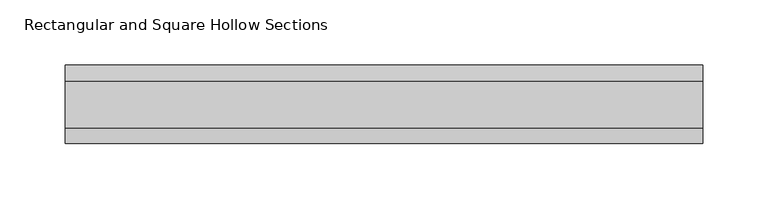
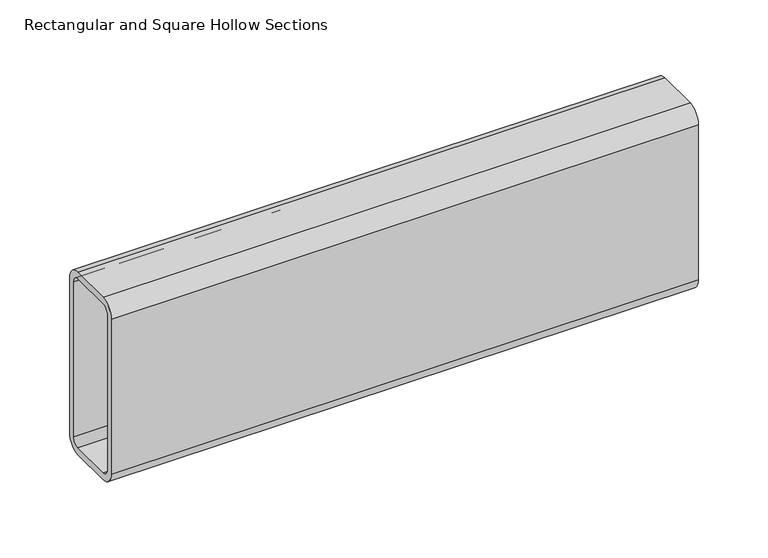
"""IFC4 building model written with IfcOpenShell, lengths in millimetres: beam geometry, Rectangular and Square Hollow Sections : TREC160x60x6."""

from ifc_helpers import new_model, si_unit, point, frame, frame_2d, origin, place, context, project, spatial, polyline, circle_curve, trimmed, segment, composite_curve, outline, extrude, source, transform, mapped, element, save


def rectangular_and_square_hollow_sections_a7bb2707(model_context):
    return source(origin(), model_context, "Body", "SweptSolid", [
        extrude(outline(composite_curve([segment(polyline([(30.0, 68.0), (30.0, -68.0)]), True, "CONTINUOUS"), segment(trimmed(circle_curve(frame_2d((18.0, -68.0)), 12.0), [point((30.0, -68.0))], [point((18.0, -80.0))], False, "CARTESIAN"), True, "CONTINUOUS"), segment(polyline([(18.0, -80.0), (-18.0, -80.0)]), True, "CONTINUOUS"), segment(trimmed(circle_curve(frame_2d((-18.0, -68.0)), 12.0), [point((-18.0, -80.0))], [point((-30.0, -68.0))], False, "CARTESIAN"), True, "CONTINUOUS"), segment(polyline([(-30.0, -68.0), (-30.0, 68.0)]), True, "CONTINUOUS"), segment(trimmed(circle_curve(frame_2d((-18.0, 68.0)), 12.0), [point((-30.0, 68.0))], [point((-18.0, 80.0))], False, "CARTESIAN"), True, "CONTINUOUS"), segment(polyline([(-18.0, 80.0), (18.0, 80.0)]), True, "CONTINUOUS"), segment(trimmed(circle_curve(frame_2d((18.0, 68.0)), 12.0), [point((18.0, 80.0))], [point((30.0, 68.0))], False, "CARTESIAN"), True, "CONTINUOUS")], self_intersect=False), holes=[composite_curve([segment(trimmed(circle_curve(frame_2d((-18.0, 68.0)), 6.0), [point((-18.0, 74.0))], [point((-24.0, 68.0))], True, "CARTESIAN"), True, "CONTINUOUS"), segment(polyline([(-24.0, 68.0), (-24.0, -68.0)]), True, "CONTINUOUS"), segment(trimmed(circle_curve(frame_2d((-18.0, -68.0)), 6.0), [point((-24.0, -68.0))], [point((-18.0, -74.0))], True, "CARTESIAN"), True, "CONTINUOUS"), segment(polyline([(-18.0, -74.0), (18.0, -74.0)]), True, "CONTINUOUS"), segment(trimmed(circle_curve(frame_2d((18.0, -68.0)), 6.0), [point((18.0, -74.0))], [point((24.0, -68.0))], True, "CARTESIAN"), True, "CONTINUOUS"), segment(polyline([(24.0, -68.0), (24.0, 68.0)]), True, "CONTINUOUS"), segment(trimmed(circle_curve(frame_2d((18.0, 68.0)), 6.0), [point((24.0, 68.0))], [point((18.0, 74.0))], True, "CARTESIAN"), True, "CONTINUOUS"), segment(polyline([(18.0, 74.0), (-18.0, 74.0)]), True, "CONTINUOUS")], self_intersect=False)]), frame((-237.0, 0.0, 0.0), z_axis=(1.0, 0.0, 0.0), x_axis=(0.0, 1.0, 0.0)), (0.0, 0.0, 1.0), 487.0),
    ])


if __name__ == "__main__":
    model = new_model("IFC4")
    model_context = context("Model", 3, world=origin())
    ifc_project = project(units=[si_unit("LENGTHUNIT", "METRE", prefix="MILLI")], contexts=[model_context])
    site = spatial("IfcSite", under=ifc_project)
    building = spatial("IfcBuilding", under=site)
    placement = place(None, origin())
    rectangular_and_square_hollow_sections_shape = rectangular_and_square_hollow_sections_a7bb2707(model_context)
    element("IfcBeam", 1, ObjectType="Rectangular and Square Hollow Sections : TREC160x60x6", at=placement, inside=building, context=model_context, shape_type="MappedRepresentation", body=[
        mapped(rectangular_and_square_hollow_sections_shape, transform((0.0, 0.0, 0.0), x_axis=(1.0, 0.0, 0.0), y_axis=(0.0, 1.0, 0.0), z_axis=(0.0, 0.0, 1.0))),
    ])
    save(model, "model.ifc")
